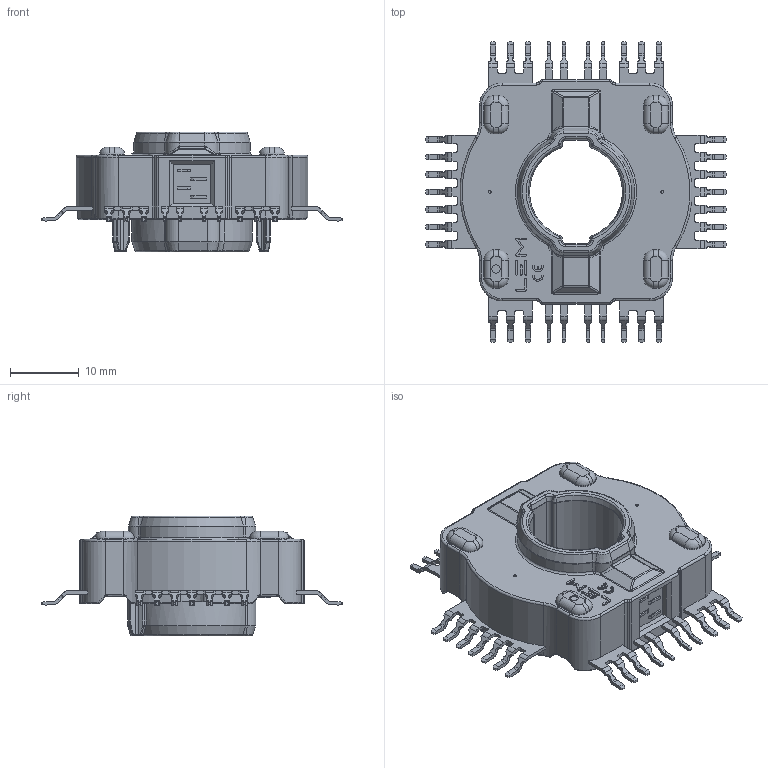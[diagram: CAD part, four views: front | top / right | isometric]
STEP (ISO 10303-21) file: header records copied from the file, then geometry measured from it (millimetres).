
FILE_DESCRIPTION(('Creo Elements/Direct Modeling STEP Export'),'2;1');
FILE_NAME('20191127_BB_HC16F S01.stp','2019-11-27T14:23:22',(''),(''),'Creo Elements/Direct Modeling STEP processor for AP214 (Solid Model)','Creo Elements/Direct Modeling 20.1 10-Mar-2018 (C) Parametric Technology GmbH','');
FILE_SCHEMA(('AUTOMOTIVE_DESIGN { 1 0 10303 214 1 1 1 1 }'));
Products named in the file (2): 20191127_BB_SMD
Assembly tree (1 placements, depth 2):
  20191127_BB_SMD
    20191127_BB_SMD
Bounding box: 43.66 x 43.66 x 17.4 mm (x, y, z)
Volume: 7855.9 mm3; surface area: 4886.2 mm2
Topology: 1 solids, 1 shells, 2190 faces, 5842 edges, 3706 vertices
Faces by surface type: plane 1244, cylinder 533, torus 208, bspline 146, cone 47, sphere 12
Entity records: 85487 total; most frequent: CARTESIAN_POINT 31893, ORIENTED_EDGE 11660, DIRECTION 10649, EDGE_CURVE 5830, VECTOR 4013, LINE 4013, VERTEX_POINT 3706, AXIS2_PLACEMENT_3D 3318
